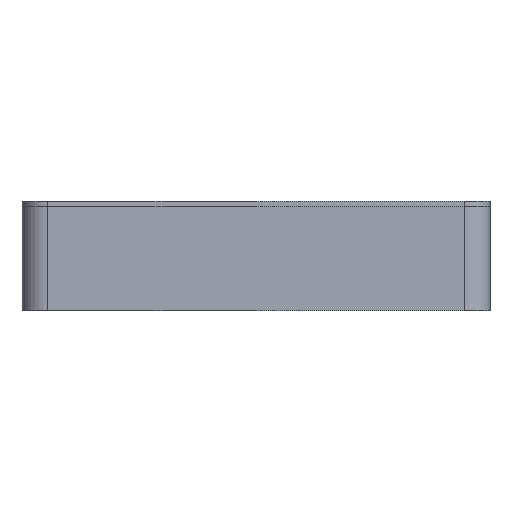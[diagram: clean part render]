
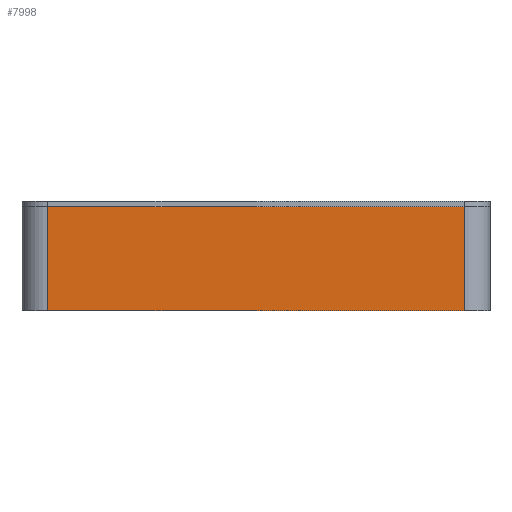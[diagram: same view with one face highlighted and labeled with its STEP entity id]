
A CAD part, left-side view. The second image highlights one B-rep face of the part: STEP entity #7998.
In plain terms, the highlighted planar face has unit normal (-1, 0, 0).
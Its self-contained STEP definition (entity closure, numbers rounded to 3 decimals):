
#1158=DIRECTION('',(0.,1.,0.));
#1159=VECTOR('',#1158,16.);
#1160=CARTESIAN_POINT('',(-9.,-8.,1.9));
#1161=LINE('',#1160,#1159);
#3402=DIRECTION('',(0.,0.,-1.));
#3403=VECTOR('',#3402,4.);
#3404=CARTESIAN_POINT('',(-9.,8.,1.9));
#3405=LINE('',#3404,#3403);
#3416=DIRECTION('',(0.,1.,0.));
#3417=VECTOR('',#3416,16.);
#3418=CARTESIAN_POINT('',(-9.,-8.,-2.1));
#3419=LINE('',#3418,#3417);
#3430=DIRECTION('',(0.,0.,1.));
#3431=VECTOR('',#3430,4.);
#3432=CARTESIAN_POINT('',(-9.,-8.,-2.1));
#3433=LINE('',#3432,#3431);
#4243=CARTESIAN_POINT('',(-9.,8.,-2.1));
#4244=VERTEX_POINT('',#4243);
#4245=CARTESIAN_POINT('',(-9.,-8.,-2.1));
#4246=VERTEX_POINT('',#4245);
#4463=CARTESIAN_POINT('',(-9.,-8.,1.9));
#4464=VERTEX_POINT('',#4463);
#4465=CARTESIAN_POINT('',(-9.,8.,1.9));
#4466=VERTEX_POINT('',#4465);
#7986=CARTESIAN_POINT('',(-9.,9.,-2.1));
#7987=DIRECTION('',(-1.,0.,0.));
#7988=DIRECTION('',(0.,-1.,0.));
#7989=AXIS2_PLACEMENT_3D('',#7986,#7987,#7988);
#7990=PLANE('',#7989);
#7991=ORIENTED_EDGE('',*,*,#5477,.F.);
#7993=ORIENTED_EDGE('',*,*,#7992,.F.);
#7994=ORIENTED_EDGE('',*,*,#4950,.T.);
#7995=ORIENTED_EDGE('',*,*,#7972,.F.);
#7996=EDGE_LOOP('',(#7991,#7993,#7994,#7995));
#7997=FACE_OUTER_BOUND('',#7996,.F.);
#7998=ADVANCED_FACE('',(#7997),#7990,.T.);
#4950=EDGE_CURVE('',#4246,#4244,#3419,.T.);
#5477=EDGE_CURVE('',#4464,#4466,#1161,.T.);
#7972=EDGE_CURVE('',#4466,#4244,#3405,.T.);
#7992=EDGE_CURVE('',#4246,#4464,#3433,.T.);
